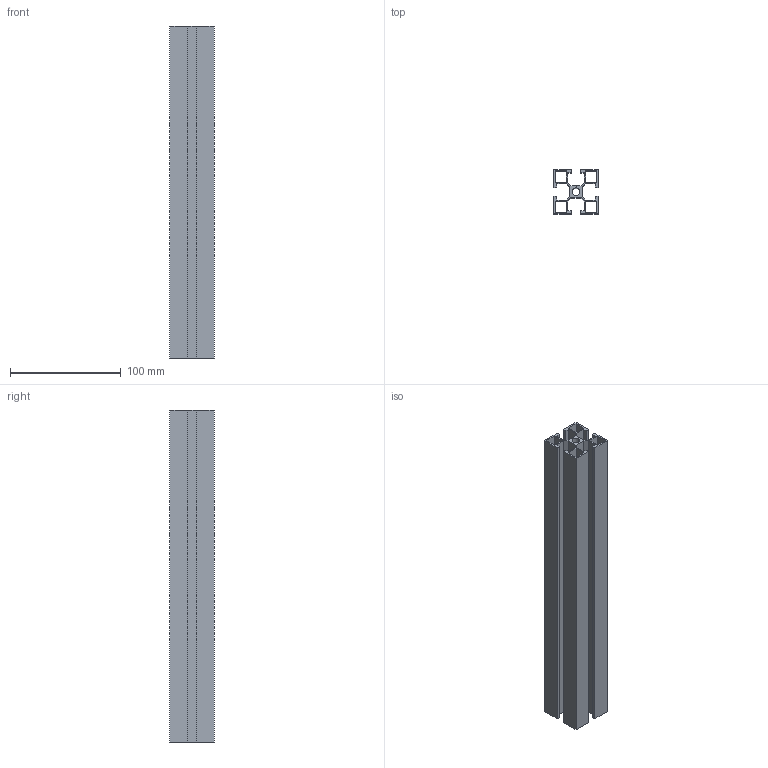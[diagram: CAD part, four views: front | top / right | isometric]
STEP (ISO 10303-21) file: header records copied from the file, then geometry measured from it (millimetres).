
FILE_DESCRIPTION (( 'STEP AP203' ), '1' );
FILE_NAME ('CG-4040LA-8.STEP', '2018-07-24T12:50:36', ( 'China' ), ( 'Home' ), 'SwSTEP 2.0', 'SolidWorks 2013', '' );
FILE_SCHEMA (( 'CONFIG_CONTROL_DESIGN' ));
Length unit declared in the file: millimetre
Products named in the file (1): CG-4040LA-8
Bounding box: 40 x 40 x 300 mm (x, y, z)
Volume: 116740.1 mm3; surface area: 150760.9 mm2
Topology: 1 solids, 1 shells, 67 faces, 195 edges, 130 vertices
Faces by surface type: plane 65, cylinder 2
Entity records: 2270 total; most frequent: CARTESIAN_POINT 393, ORIENTED_EDGE 390, DIRECTION 335, EDGE_CURVE 195, VECTOR 191, LINE 191, VERTEX_POINT 130, EDGE_LOOP 77
